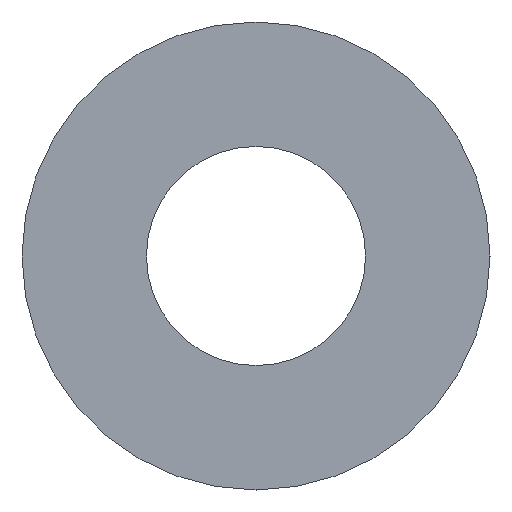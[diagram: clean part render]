
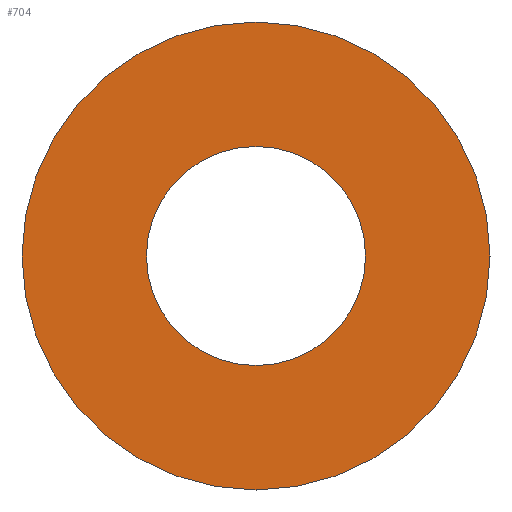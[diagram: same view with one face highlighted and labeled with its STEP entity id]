
A CAD part, front view. The second image highlights one B-rep face of the part: STEP entity #704.
In plain terms, the highlighted planar face has unit normal (0, -1, 0).
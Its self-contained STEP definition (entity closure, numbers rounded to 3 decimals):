
#48 = DIRECTION ( 'NONE',  ( 0., -1., 0. ) ) ;
#110 = EDGE_CURVE ( 'NONE', #901, #2307, #882, .T. ) ;
#193 = FACE_BOUND ( 'NONE', #2281, .T. ) ;
#226 = CARTESIAN_POINT ( 'NONE',  ( 0., -14., 0. ) ) ;
#303 = CIRCLE ( 'NONE', #2217, 23.5 ) ;
#357 = ORIENTED_EDGE ( 'NONE', *, *, #931, .F. ) ;
#429 = DIRECTION ( 'NONE',  ( 0., 0., -1. ) ) ;
#512 = CIRCLE ( 'NONE', #2171, 11. ) ;
#528 = DIRECTION ( 'NONE',  ( 0., 0., -1. ) ) ;
#607 = ORIENTED_EDGE ( 'NONE', *, *, #1248, .F. ) ;
#656 = ORIENTED_EDGE ( 'NONE', *, *, #110, .T. ) ;
#664 = CARTESIAN_POINT ( 'NONE',  ( 0., -14., 11. ) ) ;
#704 = ADVANCED_FACE ( 'NONE', ( #193, #1652 ), #2170, .F. ) ;
#737 = CARTESIAN_POINT ( 'NONE',  ( 0., -14., 0. ) ) ;
#882 = CIRCLE ( 'NONE', #1794, 23.5 ) ;
#901 = VERTEX_POINT ( 'NONE', #1307 ) ;
#923 = EDGE_LOOP ( 'NONE', ( #2065, #656 ) ) ;
#931 = EDGE_CURVE ( 'NONE', #1440, #1103, #512, .T. ) ;
#1056 = AXIS2_PLACEMENT_3D ( 'NONE', #226, #48, #1752 ) ;
#1103 = VERTEX_POINT ( 'NONE', #1927 ) ;
#1132 = DIRECTION ( 'NONE',  ( 0., -1., 0. ) ) ;
#1158 = AXIS2_PLACEMENT_3D ( 'NONE', #664, #1221, #2010 ) ;
#1221 = DIRECTION ( 'NONE',  ( 0., 1., 0. ) ) ;
#1248 = EDGE_CURVE ( 'NONE', #1103, #1440, #2369, .T. ) ;
#1279 = CARTESIAN_POINT ( 'NONE',  ( 0., -14., -11. ) ) ;
#1307 = CARTESIAN_POINT ( 'NONE',  ( 0., -14., 23.5 ) ) ;
#1383 = CARTESIAN_POINT ( 'NONE',  ( 0., -14., 0. ) ) ;
#1440 = VERTEX_POINT ( 'NONE', #1279 ) ;
#1577 = CARTESIAN_POINT ( 'NONE',  ( 0., -14., -23.5 ) ) ;
#1578 = EDGE_CURVE ( 'NONE', #2307, #901, #303, .T. ) ;
#1652 = FACE_OUTER_BOUND ( 'NONE', #923, .T. ) ;
#1664 = DIRECTION ( 'NONE',  ( 0., 0., -1. ) ) ;
#1752 = DIRECTION ( 'NONE',  ( 0., 0., -1. ) ) ;
#1765 = DIRECTION ( 'NONE',  ( 0., -1., 0. ) ) ;
#1794 = AXIS2_PLACEMENT_3D ( 'NONE', #1383, #1765, #429 ) ;
#1927 = CARTESIAN_POINT ( 'NONE',  ( 0., -14., 11. ) ) ;
#2010 = DIRECTION ( 'NONE',  ( 0., 0., 1. ) ) ;
#2065 = ORIENTED_EDGE ( 'NONE', *, *, #1578, .T. ) ;
#2170 = PLANE ( 'NONE',  #1158 ) ;
#2171 = AXIS2_PLACEMENT_3D ( 'NONE', #2463, #1132, #1664 ) ;
#2217 = AXIS2_PLACEMENT_3D ( 'NONE', #737, #2264, #528 ) ;
#2264 = DIRECTION ( 'NONE',  ( 0., -1., 0. ) ) ;
#2281 = EDGE_LOOP ( 'NONE', ( #357, #607 ) ) ;
#2307 = VERTEX_POINT ( 'NONE', #1577 ) ;
#2369 = CIRCLE ( 'NONE', #1056, 11. ) ;
#2463 = CARTESIAN_POINT ( 'NONE',  ( 0., -14., 0. ) ) ;
